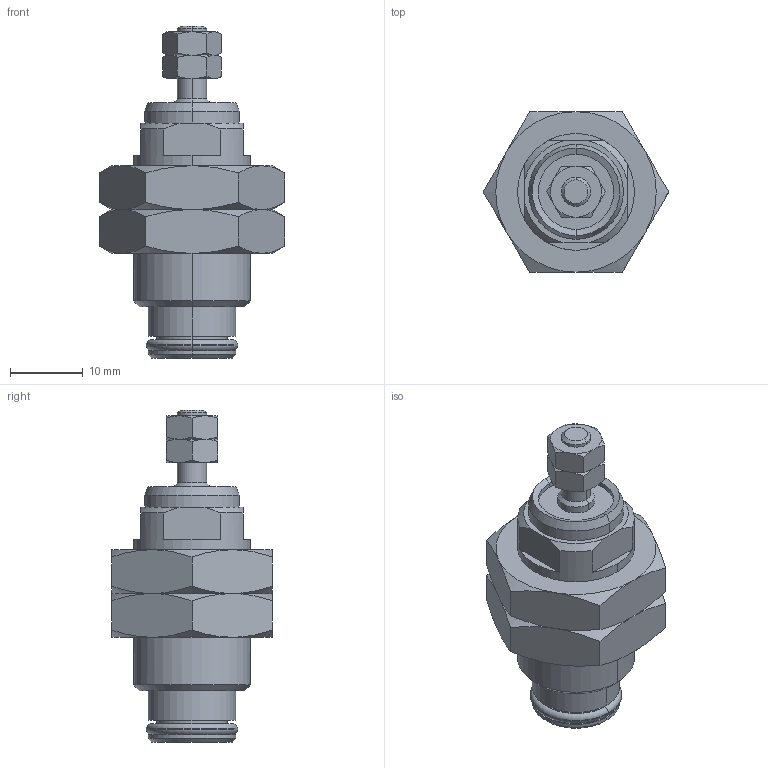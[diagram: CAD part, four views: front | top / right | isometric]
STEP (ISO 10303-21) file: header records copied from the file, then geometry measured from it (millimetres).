
FILE_DESCRIPTION((''),'2;1');
FILE_NAME('0822406912_ASM','2023-05-30T09:16:55',('THD3HC'),(''),'CREO PARAMETRIC BY PTC INC, 2020044','CREO PARAMETRIC BY PTC INC, 2020044','');
FILE_SCHEMA(('CONFIG_CONTROL_DESIGN','SHAPE_APPEARANCE_LAYERS_GROUPS'));
Length unit declared in the file: millimetre
Products named in the file (5): 0822406912-A; 0822406912-B; 0822406912-D; 0822406912-C; 0822406912_ASM
Assembly tree (6 placements, depth 2):
  0822406912_ASM
    0822406912-A
    0822406912-B
    0822406912-D  x2
    0822406912-C  x2
Bounding box: 25.4 x 22 x 45.5 mm (x, y, z)
Volume: 8270.9 mm3; surface area: 6414.4 mm2
Topology: 6 solids, 6 shells, 172 faces, 370 edges, 218 vertices
Faces by surface type: cone 82, plane 52, cylinder 34, torus 4
Entity records: 5124 total; most frequent: CARTESIAN_POINT 1455, DIRECTION 586, ORIENTED_EDGE 516, PRESENTATION_STYLE_ASSIGNMENT 272, STYLED_ITEM 265, CURVE_STYLE 258, EDGE_CURVE 258, AXIS2_PLACEMENT_3D 253
